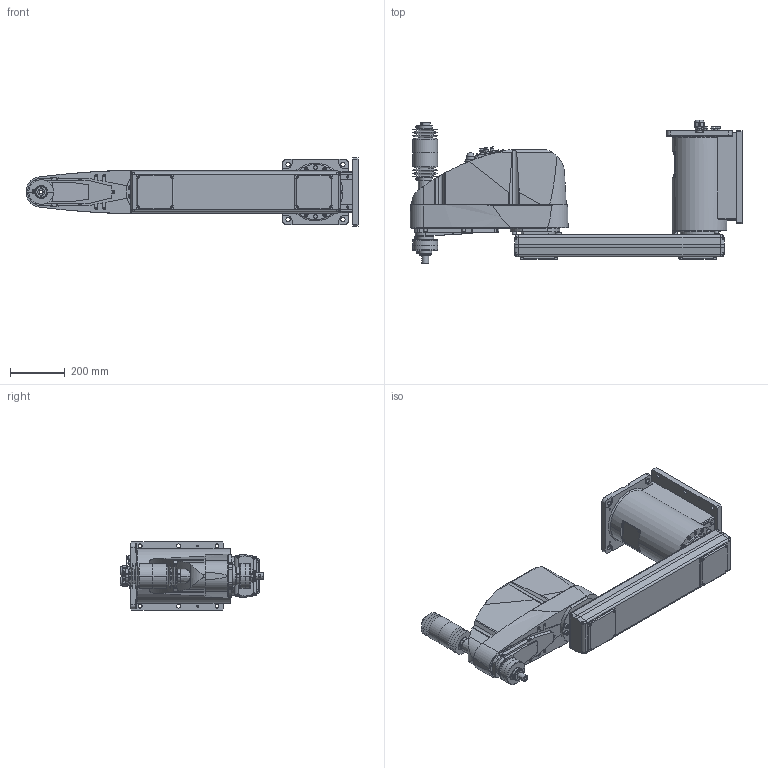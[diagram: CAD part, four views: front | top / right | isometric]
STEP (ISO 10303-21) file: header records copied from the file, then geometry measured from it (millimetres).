
FILE_DESCRIPTION( ( '' ), '1' );
FILE_NAME( '//expscmdclustefs.cadenas.external/client_exchange/iodir/jobs/output/wkb51490533_no0/STEP/G20_A01CW_2_03.stp', '2012-11-22T08:58:24', ( '' ), ( '' ), ' ', ' ', ' ' );
FILE_SCHEMA( ( 'CONFIG_CONTROL_DESIGN' ) );
Length unit declared in the file: millimetre
Products named in the file (8): 1; 2; 3; 4; 5; 6; 7; 8
Bounding box: 1210.5 x 523 x 250 mm (x, y, z)
Volume: 45077814.4 mm3; surface area: 1780267.8 mm2
Topology: 8 solids, 8 shells, 2083 faces, 5049 edges, 3273 vertices
Faces by surface type: plane 1104, cylinder 705, cone 244, torus 29, sphere 1
Entity records: 63294 total; most frequent: CARTESIAN_POINT 12676, DIRECTION 10850, ORIENTED_EDGE 10082, EDGE_CURVE 5041, AXIS2_PLACEMENT_3D 3873, VERTEX_POINT 3273, LINE 3104, VECTOR 3104
